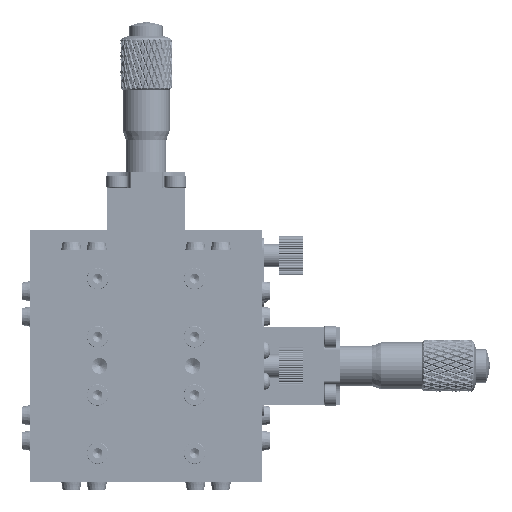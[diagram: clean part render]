
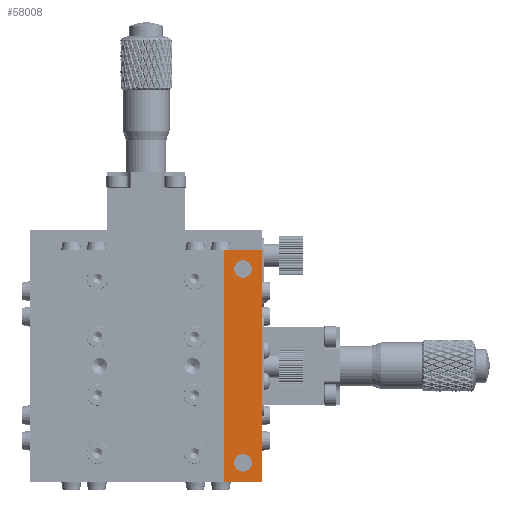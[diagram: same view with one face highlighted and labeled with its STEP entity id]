
A CAD part, front view. The second image highlights one B-rep face of the part: STEP entity #58008.
In plain terms, the highlighted planar face has unit normal (0, -1, 0).
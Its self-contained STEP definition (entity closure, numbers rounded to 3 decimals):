
#763 = EDGE_CURVE ( 'NONE', #70816, #60056, #34106, .T. ) ;
#1085 = EDGE_CURVE ( 'NONE', #60056, #58681, #3387, .T. ) ;
#3387 = LINE ( 'NONE', #23007, #5139 ) ;
#3606 = EDGE_LOOP ( 'NONE', ( #20432, #66821 ) ) ;
#4347 = ORIENTED_EDGE ( 'NONE', *, *, #1085, .F. ) ;
#4526 = ORIENTED_EDGE ( 'NONE', *, *, #28674, .T. ) ;
#5136 = EDGE_CURVE ( 'NONE', #51298, #15096, #49559, .T. ) ;
#5139 = VECTOR ( 'NONE', #62113, 1000. ) ;
#5209 = AXIS2_PLACEMENT_3D ( 'NONE', #46070, #12491, #51664 ) ;
#5665 = LINE ( 'NONE', #45884, #48557 ) ;
#6312 = EDGE_CURVE ( 'NONE', #58681, #42442, #5665, .T. ) ;
#6861 = CARTESIAN_POINT ( 'NONE',  ( 25., 0., 27.25 ) ) ;
#9164 = EDGE_CURVE ( 'NONE', #66771, #29036, #29060, .T. ) ;
#9855 = ORIENTED_EDGE ( 'NONE', *, *, #69274, .T. ) ;
#10582 = CARTESIAN_POINT ( 'NONE',  ( 20., 0., 30. ) ) ;
#11050 = DIRECTION ( 'NONE',  ( 0., 0., 1. ) ) ;
#11973 = CARTESIAN_POINT ( 'NONE',  ( 25., 0., 22.75 ) ) ;
#12047 = DIRECTION ( 'NONE',  ( 0., 1., 0. ) ) ;
#12320 = EDGE_LOOP ( 'NONE', ( #4347, #36743, #9855, #22457 ) ) ;
#12491 = DIRECTION ( 'NONE',  ( 0., 1., 0. ) ) ;
#13003 = DIRECTION ( 'NONE',  ( 1., 0., 0. ) ) ;
#13290 = DIRECTION ( 'NONE',  ( 0., 1., 0. ) ) ;
#13330 = CARTESIAN_POINT ( 'NONE',  ( 25., 0., 25. ) ) ;
#13471 = AXIS2_PLACEMENT_3D ( 'NONE', #45637, #12047, #51260 ) ;
#14043 = CARTESIAN_POINT ( 'NONE',  ( 30., 0., 30. ) ) ;
#15096 = VERTEX_POINT ( 'NONE', #32464 ) ;
#16506 = AXIS2_PLACEMENT_3D ( 'NONE', #19859, #59003, #25517 ) ;
#19003 = DIRECTION ( 'NONE',  ( 0., 0., 1. ) ) ;
#19194 = VECTOR ( 'NONE', #11050, 1000. ) ;
#19859 = CARTESIAN_POINT ( 'NONE',  ( 25., 0., 25. ) ) ;
#20172 = FACE_OUTER_BOUND ( 'NONE', #12320, .T. ) ;
#20432 = ORIENTED_EDGE ( 'NONE', *, *, #9164, .T. ) ;
#22457 = ORIENTED_EDGE ( 'NONE', *, *, #6312, .F. ) ;
#23007 = CARTESIAN_POINT ( 'NONE',  ( -30., 0., 30. ) ) ;
#25517 = DIRECTION ( 'NONE',  ( 0., 0., 1. ) ) ;
#27801 = CARTESIAN_POINT ( 'NONE',  ( 20., 0., 30. ) ) ;
#28674 = EDGE_CURVE ( 'NONE', #15096, #51298, #34573, .T. ) ;
#29036 = VERTEX_POINT ( 'NONE', #11973 ) ;
#29060 = CIRCLE ( 'NONE', #16506, 2.25 ) ;
#32464 = CARTESIAN_POINT ( 'NONE',  ( 25., 0., -27.25 ) ) ;
#34106 = LINE ( 'NONE', #27801, #19194 ) ;
#34573 = CIRCLE ( 'NONE', #13471, 2.25 ) ;
#35052 = FACE_BOUND ( 'NONE', #53528, .T. ) ;
#36743 = ORIENTED_EDGE ( 'NONE', *, *, #763, .F. ) ;
#38691 = AXIS2_PLACEMENT_3D ( 'NONE', #46848, #13290, #52456 ) ;
#41956 = ORIENTED_EDGE ( 'NONE', *, *, #5136, .T. ) ;
#41961 = CARTESIAN_POINT ( 'NONE',  ( 20., 0., -30. ) ) ;
#42442 = VERTEX_POINT ( 'NONE', #43012 ) ;
#43012 = CARTESIAN_POINT ( 'NONE',  ( 30., 0., -30. ) ) ;
#45637 = CARTESIAN_POINT ( 'NONE',  ( 25., 0., -25. ) ) ;
#45884 = CARTESIAN_POINT ( 'NONE',  ( 30., 0., 30. ) ) ;
#46070 = CARTESIAN_POINT ( 'NONE',  ( -30., 0., 30. ) ) ;
#46571 = CARTESIAN_POINT ( 'NONE',  ( -30., 0., -30. ) ) ;
#46848 = CARTESIAN_POINT ( 'NONE',  ( 25., 0., -25. ) ) ;
#46875 = EDGE_CURVE ( 'NONE', #29036, #66771, #52647, .T. ) ;
#47125 = LINE ( 'NONE', #46571, #62022 ) ;
#48557 = VECTOR ( 'NONE', #62525, 1000. ) ;
#49559 = CIRCLE ( 'NONE', #38691, 2.25 ) ;
#51260 = DIRECTION ( 'NONE',  ( 0., 0., 1. ) ) ;
#51298 = VERTEX_POINT ( 'NONE', #56517 ) ;
#51442 = PLANE ( 'NONE',  #5209 ) ;
#51664 = DIRECTION ( 'NONE',  ( 0., 0., 1. ) ) ;
#52456 = DIRECTION ( 'NONE',  ( 0., 0., 1. ) ) ;
#52490 = DIRECTION ( 'NONE',  ( 0., 1., 0. ) ) ;
#52647 = CIRCLE ( 'NONE', #58315, 2.25 ) ;
#53528 = EDGE_LOOP ( 'NONE', ( #41956, #4526 ) ) ;
#56517 = CARTESIAN_POINT ( 'NONE',  ( 25., 0., -22.75 ) ) ;
#58008 = ADVANCED_FACE ( 'NONE', ( #63021, #35052, #20172 ), #51442, .F. ) ;
#58315 = AXIS2_PLACEMENT_3D ( 'NONE', #13330, #52490, #19003 ) ;
#58681 = VERTEX_POINT ( 'NONE', #14043 ) ;
#59003 = DIRECTION ( 'NONE',  ( 0., 1., 0. ) ) ;
#60056 = VERTEX_POINT ( 'NONE', #10582 ) ;
#62022 = VECTOR ( 'NONE', #13003, 1000. ) ;
#62113 = DIRECTION ( 'NONE',  ( 1., 0., 0. ) ) ;
#62525 = DIRECTION ( 'NONE',  ( 0., 0., -1. ) ) ;
#63021 = FACE_BOUND ( 'NONE', #3606, .T. ) ;
#66771 = VERTEX_POINT ( 'NONE', #6861 ) ;
#66821 = ORIENTED_EDGE ( 'NONE', *, *, #46875, .T. ) ;
#69274 = EDGE_CURVE ( 'NONE', #70816, #42442, #47125, .T. ) ;
#70816 = VERTEX_POINT ( 'NONE', #41961 ) ;
